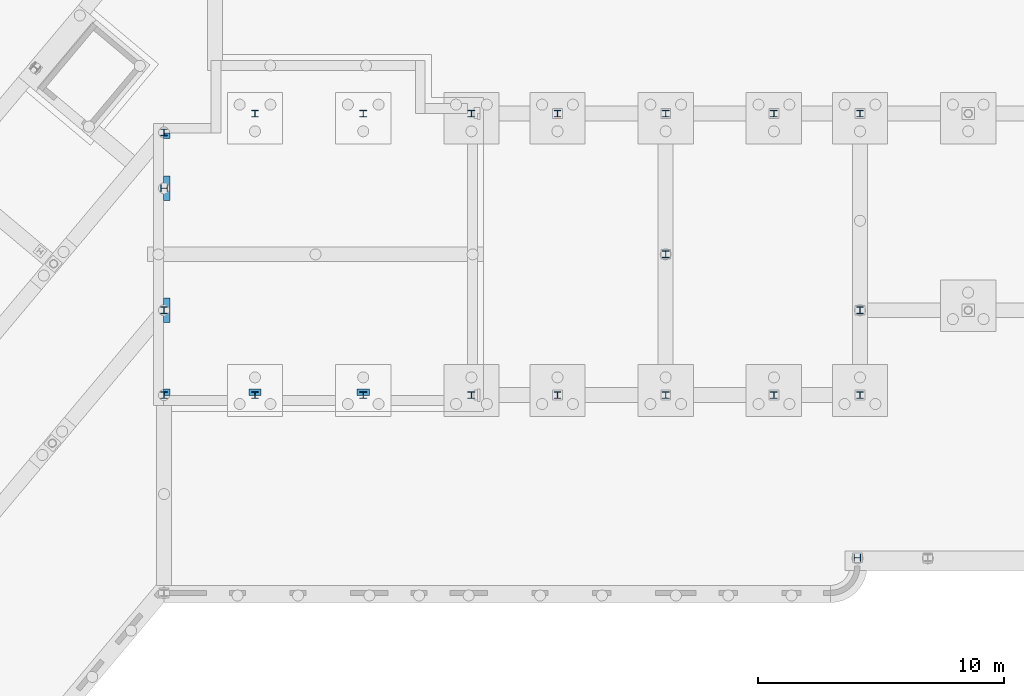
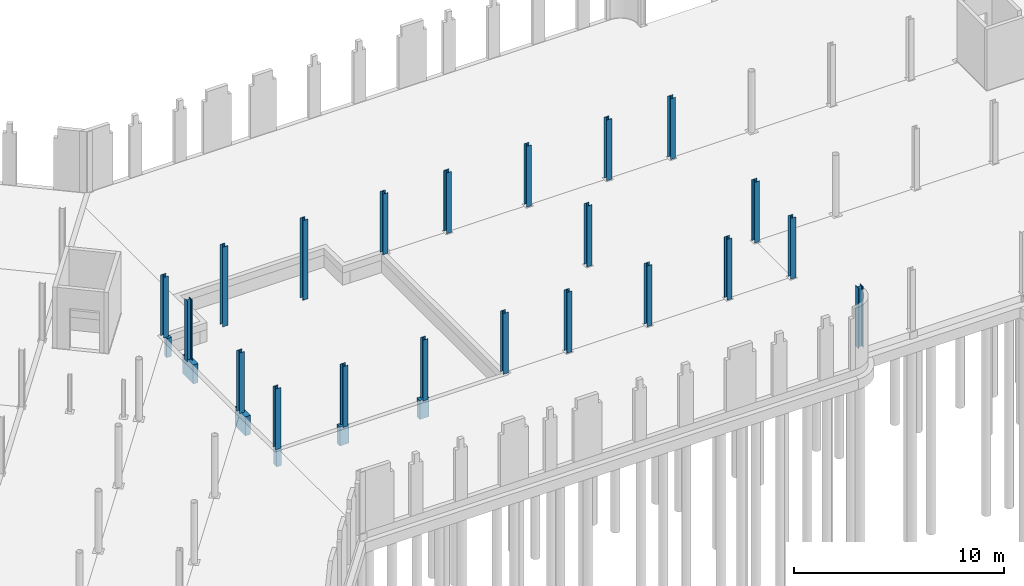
# One storey, part 8 of 26: 27 columns.
"""IFC2X3 building model written with IfcOpenShell, lengths in millimetres."""

from ifc_helpers import new_model, entity, si_unit, converted_unit, derived_unit, direction, frame, frame_2d, origin, origin_2d_with_axis, place, context, subcontext, project, spatial, rectangle, i_section, extrude, source, transform, mapped, material, type_object, type_shapes, element, save


model = new_model("IFC2X3")

# Units and contexts
model_context = context("Model", 3, precision=0.01, world=origin(), true_north=direction((6.123031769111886e-17, 1.0)))
body_context = subcontext(model_context, "Body", "Model", "MODEL_VIEW")
ifc_project = project(units=[si_unit("LENGTHUNIT", "METRE", prefix="MILLI"), si_unit("AREAUNIT", "SQUARE_METRE"), si_unit("VOLUMEUNIT", "CUBIC_METRE"), derived_unit("MASSDENSITYUNIT", [(si_unit("MASSUNIT", "GRAM", prefix="KILO"), 1), (si_unit("LENGTHUNIT", "METRE"), -3)]), si_unit("MASSUNIT", "GRAM", prefix="KILO"), converted_unit("PLANEANGLEUNIT", "DEGREE", entity("IfcPlaneAngleMeasure", 0.017453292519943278), si_unit("PLANEANGLEUNIT", "RADIAN"), dimensions=[0, 0, 0, 0, 0, 0, 0])], contexts=[model_context])

# Site, building, storey
site_placement = place(None, origin())
site = spatial("IfcSite", under=ifc_project, at=site_placement, Name="Default", CompositionType="ELEMENT")
building_placement = place(site_placement, origin())
building = spatial("IfcBuilding", under=site, at=building_placement, Name="AT constructie", CompositionType="ELEMENT")
storey_placement = place(building_placement, origin())
storey = spatial("IfcBuildingStorey", under=building, at=storey_placement, Name="00 begane grond", CompositionType="ELEMENT", Elevation=-1.0828671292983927e-12)

# Columns
ifc_material_1 = material(Name="h2_staal_S355")
column_type_1 = type_object("IfcColumnType", Name="kolom_gen_HEA280", PredefinedType="COLUMN", material=ifc_material_1)
shared_shape_1 = source(origin(), body_context, "Body", "SweptSolid", [
    extrude(i_section(OverallWidth=280.0000000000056, OverallDepth=269.99999999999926, WebThickness=7.999999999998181, FlangeThickness=13.000000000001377, FilletRadius=24.0, at=frame_2d((0.0, 8.668621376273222e-12), x_axis=(1.0, 0.0))), frame((69446.87463111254, 31271.043508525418, -50.0)), (0.0, 0.0, 1.0), 3529.0000000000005),
])
type_shapes(column_type_1, [shared_shape_1])
column_1_placement = place(storey_placement, origin())
element("IfcColumn", 1, at=column_1_placement, inside=storey, type_object=column_type_1, material=ifc_material_1, Name="NLRS_28_SC_TLB_kolom HEA_gen_AT:kolom_gen_HEA280", ObjectType="NLRS_28_SC_TLB_kolom HEA_gen_AT:kolom_gen_HEA280", context=body_context, shape_type="MappedRepresentation", body=[
    mapped(shared_shape_1, transform((0.0, 0.0, 0.0), scale=1.0)),
])
column_type_2 = type_object("IfcColumnType", Name="kolom_gen_HEA280", PredefinedType="COLUMN", material=ifc_material_1)
shared_shape_2 = source(origin(), body_context, "Body", "SweptSolid", [
    extrude(i_section(OverallWidth=280.0000000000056, OverallDepth=269.99999999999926, WebThickness=7.999999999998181, FlangeThickness=13.000000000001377, FilletRadius=24.0, at=origin_2d_with_axis()), frame((65946.87463111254, 31271.04350852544, -50.0)), (0.0, 0.0, 1.0), 3529.0000000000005),
])
type_shapes(column_type_2, [shared_shape_2])
column_2_placement = place(storey_placement, origin())
element("IfcColumn", 2, at=column_2_placement, inside=storey, type_object=column_type_2, material=ifc_material_1, Name="NLRS_28_SC_TLB_kolom HEA_gen_AT:kolom_gen_HEA280", ObjectType="NLRS_28_SC_TLB_kolom HEA_gen_AT:kolom_gen_HEA280", context=body_context, shape_type="MappedRepresentation", body=[
    mapped(shared_shape_2, transform((0.0, 0.0, 0.0), scale=1.0)),
])
column_type_3 = type_object("IfcColumnType", Name="kolom_gen_HEA280", PredefinedType="COLUMN", material=ifc_material_1)
shared_shape_3 = source(origin(), body_context, "Body", "SweptSolid", [
    extrude(i_section(OverallWidth=280.0000000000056, OverallDepth=269.99999999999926, WebThickness=7.999999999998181, FlangeThickness=13.000000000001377, FilletRadius=24.0, at=frame_2d((8.65441052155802e-12, -4.320099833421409e-12), x_axis=(1.0, 0.0))), frame((61546.87463111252, 31271.043508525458, -50.0)), (0.0, 0.0, 1.0), 3529.0000000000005),
])
type_shapes(column_type_3, [shared_shape_3])
column_3_placement = place(storey_placement, origin())
element("IfcColumn", 3, at=column_3_placement, inside=storey, type_object=column_type_3, material=ifc_material_1, Name="NLRS_28_SC_TLB_kolom HEA_gen_AT:kolom_gen_HEA280", ObjectType="NLRS_28_SC_TLB_kolom HEA_gen_AT:kolom_gen_HEA280", context=body_context, shape_type="MappedRepresentation", body=[
    mapped(shared_shape_3, transform((0.0, 0.0, 0.0), scale=1.0)),
])
column_type_4 = type_object("IfcColumnType", Name="kolom_gen_HEA280", PredefinedType="COLUMN", material=ifc_material_1)
shared_shape_4 = source(origin(), body_context, "Body", "SweptSolid", [
    extrude(i_section(OverallWidth=280.0000000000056, OverallDepth=269.99999999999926, WebThickness=7.999999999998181, FlangeThickness=13.000000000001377, FilletRadius=24.0, at=frame_2d((8.65441052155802e-12, 0.0), x_axis=(1.0, 0.0))), frame((57146.874631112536, 31271.043508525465, -50.0)), (0.0, 0.0, 1.0), 3529.0000000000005),
])
type_shapes(column_type_4, [shared_shape_4])
column_4_placement = place(storey_placement, origin())
element("IfcColumn", 4, at=column_4_placement, inside=storey, type_object=column_type_4, material=ifc_material_1, Name="NLRS_28_SC_TLB_kolom HEA_gen_AT:kolom_gen_HEA280", ObjectType="NLRS_28_SC_TLB_kolom HEA_gen_AT:kolom_gen_HEA280", context=body_context, shape_type="MappedRepresentation", body=[
    mapped(shared_shape_4, transform((0.0, 0.0, 0.0), scale=1.0)),
])
column_type_5 = type_object("IfcColumnType", Name="kolom_gen_HEA280", PredefinedType="COLUMN", material=ifc_material_1)
shared_shape_5 = source(origin(), body_context, "Body", "SweptSolid", [
    extrude(i_section(OverallWidth=280.0000000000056, OverallDepth=269.99999999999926, WebThickness=7.999999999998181, FlangeThickness=13.000000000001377, FilletRadius=24.0, at=frame_2d((-8.65441052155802e-12, 4.320099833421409e-12), x_axis=(1.0, 0.0))), frame((53646.87463111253, 31271.043508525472, -50.0)), (0.0, 0.0, 1.0), 3529.0000000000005),
])
type_shapes(column_type_5, [shared_shape_5])
column_5_placement = place(storey_placement, origin())
element("IfcColumn", 5, at=column_5_placement, inside=storey, type_object=column_type_5, material=ifc_material_1, Name="NLRS_28_SC_TLB_kolom HEA_gen_AT:kolom_gen_HEA280", ObjectType="NLRS_28_SC_TLB_kolom HEA_gen_AT:kolom_gen_HEA280", context=body_context, shape_type="MappedRepresentation", body=[
    mapped(shared_shape_5, transform((0.0, 0.0, 0.0), scale=1.0)),
])
column_type_6 = type_object("IfcColumnType", Name="kolom_gen_HEA280", PredefinedType="COLUMN", material=ifc_material_1)
shared_shape_6 = source(origin(), body_context, "Body", "SweptSolid", [
    extrude(i_section(OverallWidth=280.0000000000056, OverallDepth=269.99999999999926, WebThickness=7.999999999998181, FlangeThickness=13.000000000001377, FilletRadius=24.0, at=frame_2d((0.0, 1.2988721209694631e-11), x_axis=(1.0, 0.0))), frame((49246.87463111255, 31271.04350852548, -1154.0)), (0.0, 0.0, 1.0), 4633.0),
])
type_shapes(column_type_6, [shared_shape_6])
column_6_placement = place(storey_placement, origin())
element("IfcColumn", 6, at=column_6_placement, inside=storey, type_object=column_type_6, material=ifc_material_1, Name="NLRS_28_SC_TLB_kolom HEA_gen_AT:kolom_gen_HEA280", ObjectType="NLRS_28_SC_TLB_kolom HEA_gen_AT:kolom_gen_HEA280", context=body_context, shape_type="MappedRepresentation", body=[
    mapped(shared_shape_6, transform((0.0, 0.0, 0.0), scale=1.0)),
])
column_type_7 = type_object("IfcColumnType", Name="kolom_gen_HEA280", PredefinedType="COLUMN", material=ifc_material_1)
shared_shape_7 = source(origin(), body_context, "Body", "SweptSolid", [
    extrude(i_section(OverallWidth=280.0000000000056, OverallDepth=269.99999999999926, WebThickness=7.999999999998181, FlangeThickness=13.000000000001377, FilletRadius=24.0, at=origin_2d_with_axis()), frame((44846.87463111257, 31271.043508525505, -1154.0)), (0.0, 0.0, 1.0), 4633.0),
])
type_shapes(column_type_7, [shared_shape_7])
column_7_placement = place(storey_placement, origin())
element("IfcColumn", 7, at=column_7_placement, inside=storey, type_object=column_type_7, material=ifc_material_1, Name="NLRS_28_SC_TLB_kolom HEA_gen_AT:kolom_gen_HEA280", ObjectType="NLRS_28_SC_TLB_kolom HEA_gen_AT:kolom_gen_HEA280", context=body_context, shape_type="MappedRepresentation", body=[
    mapped(shared_shape_7, transform((0.0, 0.0, 0.0), scale=1.0)),
])
column_type_8 = type_object("IfcColumnType", Name="kolom_gen_HEA280", PredefinedType="COLUMN", material=ifc_material_1)
shared_shape_8 = source(origin(), body_context, "Body", "SweptSolid", [
    extrude(i_section(OverallWidth=280.0000000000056, OverallDepth=269.99999999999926, WebThickness=7.999999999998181, FlangeThickness=13.000000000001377, FilletRadius=24.0, at=origin_2d_with_axis()), frame((69446.87463111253, 23271.043508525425, -50.0)), (0.0, 0.0, 1.0), 3529.0000000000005),
])
type_shapes(column_type_8, [shared_shape_8])
column_8_placement = place(storey_placement, origin())
element("IfcColumn", 8, at=column_8_placement, inside=storey, type_object=column_type_8, material=ifc_material_1, Name="NLRS_28_SC_TLB_kolom HEA_gen_AT:kolom_gen_HEA280", ObjectType="NLRS_28_SC_TLB_kolom HEA_gen_AT:kolom_gen_HEA280", context=body_context, shape_type="MappedRepresentation", body=[
    mapped(shared_shape_8, transform((0.0, 0.0, 0.0), scale=1.0)),
])
column_type_9 = type_object("IfcColumnType", Name="kolom_gen_HEA280", PredefinedType="COLUMN", material=ifc_material_1)
shared_shape_9 = source(origin(), body_context, "Body", "SweptSolid", [
    extrude(i_section(OverallWidth=280.0000000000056, OverallDepth=269.99999999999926, WebThickness=7.999999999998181, FlangeThickness=13.000000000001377, FilletRadius=24.0, at=frame_2d((8.65441052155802e-12, 0.0), x_axis=(1.0, 0.0))), frame((65946.8746311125, 19821.04350852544, -50.0)), (0.0, 0.0, 1.0), 3529.0000000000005),
])
type_shapes(column_type_9, [shared_shape_9])
column_9_placement = place(storey_placement, origin())
element("IfcColumn", 9, at=column_9_placement, inside=storey, type_object=column_type_9, material=ifc_material_1, Name="NLRS_28_SC_TLB_kolom HEA_gen_AT:kolom_gen_HEA280", ObjectType="NLRS_28_SC_TLB_kolom HEA_gen_AT:kolom_gen_HEA280", context=body_context, shape_type="MappedRepresentation", body=[
    mapped(shared_shape_9, transform((0.0, 0.0, 0.0), scale=1.0)),
])
column_type_10 = type_object("IfcColumnType", Name="kolom_gen_HEA280", PredefinedType="COLUMN", material=ifc_material_1)
shared_shape_10 = source(origin(), body_context, "Body", "SweptSolid", [
    extrude(i_section(OverallWidth=280.0000000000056, OverallDepth=269.99999999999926, WebThickness=7.999999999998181, FlangeThickness=13.000000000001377, FilletRadius=24.0, at=origin_2d_with_axis()), frame((61546.87463111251, 19821.04350852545, -50.0)), (0.0, 0.0, 1.0), 3529.0000000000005),
])
type_shapes(column_type_10, [shared_shape_10])
column_10_placement = place(storey_placement, origin())
element("IfcColumn", 10, at=column_10_placement, inside=storey, type_object=column_type_10, material=ifc_material_1, Name="NLRS_28_SC_TLB_kolom HEA_gen_AT:kolom_gen_HEA280", ObjectType="NLRS_28_SC_TLB_kolom HEA_gen_AT:kolom_gen_HEA280", context=body_context, shape_type="MappedRepresentation", body=[
    mapped(shared_shape_10, transform((0.0, 0.0, 0.0), scale=1.0)),
])
column_type_11 = type_object("IfcColumnType", Name="kolom_gen_HEA280", PredefinedType="COLUMN", material=ifc_material_1)
shared_shape_11 = source(origin(), body_context, "Body", "SweptSolid", [
    extrude(i_section(OverallWidth=280.0000000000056, OverallDepth=269.99999999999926, WebThickness=7.999999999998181, FlangeThickness=13.000000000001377, FilletRadius=24.0, at=frame_2d((0.0, 4.320099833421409e-12), x_axis=(1.0, 0.0))), frame((57146.87463111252, 19821.04350852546, -50.0)), (0.0, 0.0, 1.0), 3529.0000000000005),
])
type_shapes(column_type_11, [shared_shape_11])
column_11_placement = place(storey_placement, origin())
element("IfcColumn", 11, at=column_11_placement, inside=storey, type_object=column_type_11, material=ifc_material_1, Name="NLRS_28_SC_TLB_kolom HEA_gen_AT:kolom_gen_HEA280", ObjectType="NLRS_28_SC_TLB_kolom HEA_gen_AT:kolom_gen_HEA280", context=body_context, shape_type="MappedRepresentation", body=[
    mapped(shared_shape_11, transform((0.0, 0.0, 0.0), scale=1.0)),
])
column_type_12 = type_object("IfcColumnType", Name="kolom_gen_HEA280", PredefinedType="COLUMN", material=ifc_material_1)
shared_shape_12 = source(origin(), body_context, "Body", "SweptSolid", [
    extrude(i_section(OverallWidth=280.0000000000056, OverallDepth=269.99999999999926, WebThickness=7.999999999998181, FlangeThickness=13.000000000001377, FilletRadius=24.0, at=frame_2d((1.7323031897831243e-11, 0.0), x_axis=(1.0, 0.0))), frame((53646.87463111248, 19821.043508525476, -50.0)), (0.0, 0.0, 1.0), 3529.0000000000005),
])
type_shapes(column_type_12, [shared_shape_12])
column_12_placement = place(storey_placement, origin())
element("IfcColumn", 12, at=column_12_placement, inside=storey, type_object=column_type_12, material=ifc_material_1, Name="NLRS_28_SC_TLB_kolom HEA_gen_AT:kolom_gen_HEA280", ObjectType="NLRS_28_SC_TLB_kolom HEA_gen_AT:kolom_gen_HEA280", context=body_context, shape_type="MappedRepresentation", body=[
    mapped(shared_shape_12, transform((0.0, 0.0, 0.0), scale=1.0)),
])
column_type_13 = type_object("IfcColumnType", Name="kolom_gen_HEA280", PredefinedType="COLUMN", material=ifc_material_1)
shared_shape_13 = source(origin(), body_context, "Body", "SweptSolid", [
    extrude(i_section(OverallWidth=280.0000000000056, OverallDepth=269.99999999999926, WebThickness=7.999999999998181, FlangeThickness=13.000000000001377, FilletRadius=24.0, at=origin_2d_with_axis()), frame((49246.87463111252, 19821.04350852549, -50.0)), (0.0, 0.0, 1.0), 3529.0000000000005),
])
type_shapes(column_type_13, [shared_shape_13])
column_13_placement = place(storey_placement, origin())
element("IfcColumn", 13, at=column_13_placement, inside=storey, type_object=column_type_13, material=ifc_material_1, Name="NLRS_28_SC_TLB_kolom HEA_gen_AT:kolom_gen_HEA280", ObjectType="NLRS_28_SC_TLB_kolom HEA_gen_AT:kolom_gen_HEA280", context=body_context, shape_type="MappedRepresentation", body=[
    mapped(shared_shape_13, transform((0.0, 0.0, 0.0), scale=1.0)),
])
column_type_14 = type_object("IfcColumnType", Name="kolom_gen_HEA280", PredefinedType="COLUMN", material=ifc_material_1)
shared_shape_14 = source(origin(), body_context, "Body", "SweptSolid", [
    extrude(i_section(OverallWidth=280.0000000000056, OverallDepth=269.99999999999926, WebThickness=7.999999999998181, FlangeThickness=13.000000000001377, FilletRadius=24.0, at=frame_2d((8.65441052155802e-12, 4.320099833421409e-12), x_axis=(1.0, 0.0))), frame((44846.874631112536, 19821.043508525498, -50.0)), (0.0, 0.0, 1.0), 3529.0000000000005),
])
type_shapes(column_type_14, [shared_shape_14])
column_14_placement = place(storey_placement, origin())
element("IfcColumn", 14, at=column_14_placement, inside=storey, type_object=column_type_14, material=ifc_material_1, Name="NLRS_28_SC_TLB_kolom HEA_gen_AT:kolom_gen_HEA280", ObjectType="NLRS_28_SC_TLB_kolom HEA_gen_AT:kolom_gen_HEA280", context=body_context, shape_type="MappedRepresentation", body=[
    mapped(shared_shape_14, transform((0.0, 0.0, 0.0), scale=1.0)),
])
column_type_15 = type_object("IfcColumnType", Name="kolom_gen_HEA280", PredefinedType="COLUMN", material=ifc_material_1)
shared_shape_15 = source(origin(), body_context, "Body", "SweptSolid", [
    extrude(i_section(OverallWidth=280.0000000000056, OverallDepth=269.99999999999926, WebThickness=7.999999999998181, FlangeThickness=13.000000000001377, FilletRadius=24.0, at=frame_2d((8.65441052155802e-12, 4.320099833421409e-12), x_axis=(1.0, 0.0))), frame((69446.8746311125, 19821.04350852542, -50.0)), (0.0, 0.0, 1.0), 3529.0000000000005),
])
type_shapes(column_type_15, [shared_shape_15])
column_15_placement = place(storey_placement, origin())
element("IfcColumn", 15, at=column_15_placement, inside=storey, type_object=column_type_15, material=ifc_material_1, Name="NLRS_28_SC_TLB_kolom HEA_gen_AT:kolom_gen_HEA280", ObjectType="NLRS_28_SC_TLB_kolom HEA_gen_AT:kolom_gen_HEA280", context=body_context, shape_type="MappedRepresentation", body=[
    mapped(shared_shape_15, transform((0.0, 0.0, 0.0), scale=1.0)),
])
column_type_16 = type_object("IfcColumnType", Name="kolom_gen_HEA280", PredefinedType="COLUMN", material=ifc_material_1)
shared_shape_16 = source(origin(), body_context, "Body", "SweptSolid", [
    extrude(i_section(OverallWidth=280.0000000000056, OverallDepth=269.99999999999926, WebThickness=7.999999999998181, FlangeThickness=13.000000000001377, FilletRadius=24.0, at=origin_2d_with_axis()), frame((41146.87463111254, 19821.043508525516, -50.0)), (0.0, 0.0, 1.0), 3524.000000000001),
])
type_shapes(column_type_16, [shared_shape_16])
column_16_placement = place(storey_placement, origin())
element("IfcColumn", 16, at=column_16_placement, inside=storey, type_object=column_type_16, material=ifc_material_1, Name="NLRS_28_SC_TLB_kolom HEA_gen_AT:kolom_gen_HEA280", ObjectType="NLRS_28_SC_TLB_kolom HEA_gen_AT:kolom_gen_HEA280", context=body_context, shape_type="MappedRepresentation", body=[
    mapped(shared_shape_16, transform((0.0, 0.0, 0.0), scale=1.0)),
])
column_type_17 = type_object("IfcColumnType", Name="kolom_gen_HEA280", PredefinedType="COLUMN", material=ifc_material_1)
shared_shape_17 = source(origin(), body_context, "Body", "SweptSolid", [
    extrude(i_section(OverallWidth=280.0000000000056, OverallDepth=269.99999999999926, WebThickness=7.999999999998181, FlangeThickness=13.000000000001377, FilletRadius=24.0, at=frame_2d((0.0, 8.668621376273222e-12), x_axis=(1.0, 0.0))), frame((41146.87463111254, 23271.043508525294, -50.0)), (0.0, 0.0, 1.0), 3524.000000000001),
])
type_shapes(column_type_17, [shared_shape_17])
column_17_placement = place(storey_placement, origin())
element("IfcColumn", 17, at=column_17_placement, inside=storey, type_object=column_type_17, material=ifc_material_1, Name="NLRS_28_SC_TLB_kolom HEA_gen_AT:kolom_gen_HEA280", ObjectType="NLRS_28_SC_TLB_kolom HEA_gen_AT:kolom_gen_HEA280", context=body_context, shape_type="MappedRepresentation", body=[
    mapped(shared_shape_17, transform((0.0, 0.0, 0.0), scale=1.0)),
])
column_type_18 = type_object("IfcColumnType", Name="kolom_gen_HEA280", PredefinedType="COLUMN", material=ifc_material_1)
shared_shape_18 = source(origin(), body_context, "Body", "SweptSolid", [
    extrude(i_section(OverallWidth=279.9999999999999, OverallDepth=269.99999999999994, WebThickness=7.9999999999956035, FlangeThickness=12.999999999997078, FilletRadius=24.0, at=frame_2d((2.1600499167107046e-12, 0.0), x_axis=(1.0, 0.0))), frame((69345.37462610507, 13206.043519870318, -50.0), z_axis=(0.0, 0.0, 1.0), x_axis=(-7.1525818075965e-08, 1.0, 0.0)), (0.0, 0.0, 1.0), 3529.0000000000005),
])
type_shapes(column_type_18, [shared_shape_18])
column_18_placement = place(storey_placement, origin())
element("IfcColumn", 18, at=column_18_placement, inside=storey, type_object=column_type_18, material=ifc_material_1, Name="NLRS_28_SC_TLB_kolom HEA_gen_AT:kolom_gen_HEA280", ObjectType="NLRS_28_SC_TLB_kolom HEA_gen_AT:kolom_gen_HEA280", context=body_context, shape_type="MappedRepresentation", body=[
    mapped(shared_shape_18, transform((0.0, 0.0, 0.0), scale=1.0)),
])
column_type_19 = type_object("IfcColumnType", Name="kolom_gen_HEA280", PredefinedType="COLUMN", material=ifc_material_1)
shared_shape_19 = source(origin(), body_context, "Body", "SweptSolid", [
    extrude(i_section(OverallWidth=280.0000000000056, OverallDepth=269.99999999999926, WebThickness=7.999999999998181, FlangeThickness=13.000000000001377, FilletRadius=24.0, at=frame_2d((0.0, 4.320099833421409e-12), x_axis=(1.0, 0.0))), frame((41146.87463111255, 30506.043508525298, -50.0)), (0.0, 0.0, 1.0), 3524.000000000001),
])
type_shapes(column_type_19, [shared_shape_19])
column_19_placement = place(storey_placement, origin())
element("IfcColumn", 19, at=column_19_placement, inside=storey, type_object=column_type_19, material=ifc_material_1, Name="NLRS_28_SC_TLB_kolom HEA_gen_AT:kolom_gen_HEA280", ObjectType="NLRS_28_SC_TLB_kolom HEA_gen_AT:kolom_gen_HEA280", context=body_context, shape_type="MappedRepresentation", body=[
    mapped(shared_shape_19, transform((0.0, 0.0, 0.0), scale=1.0)),
])
column_type_20 = type_object("IfcColumnType", Name="kolom_gen_HEA280", PredefinedType="COLUMN", material=ifc_material_1)
shared_shape_20 = source(origin(), body_context, "Body", "SweptSolid", [
    extrude(i_section(OverallWidth=280.0000000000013, OverallDepth=269.99999999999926, WebThickness=8.000000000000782, FlangeThickness=12.999999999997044, FilletRadius=24.0, at=frame_2d((8.668621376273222e-12, 0.0), x_axis=(1.0, 0.0))), frame((41146.874631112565, 28231.0435085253, -50.0), z_axis=(0.0, 0.0, 1.0), x_axis=(0.0, -1.0, 0.0)), (0.0, 0.0, 1.0), 3524.000000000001),
])
type_shapes(column_type_20, [shared_shape_20])
column_20_placement = place(storey_placement, origin())
element("IfcColumn", 20, at=column_20_placement, inside=storey, type_object=column_type_20, material=ifc_material_1, Name="NLRS_28_SC_TLB_kolom HEA_gen_AT:kolom_gen_HEA280", ObjectType="NLRS_28_SC_TLB_kolom HEA_gen_AT:kolom_gen_HEA280", context=body_context, shape_type="MappedRepresentation", body=[
    mapped(shared_shape_20, transform((0.0, 0.0, 0.0), scale=1.0)),
])
column_type_21 = type_object("IfcColumnType", Name="kolom_gen_HEA280", PredefinedType="COLUMN", material=ifc_material_1)
shared_shape_21 = source(origin(), body_context, "Body", "SweptSolid", [
    extrude(i_section(OverallWidth=280.0000000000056, OverallDepth=269.99999999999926, WebThickness=7.999999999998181, FlangeThickness=13.000000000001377, FilletRadius=24.0, at=frame_2d((0.0, -4.320099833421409e-12), x_axis=(1.0, 0.0))), frame((61546.87463111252, 25546.043508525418, -50.0)), (0.0, 0.0, 1.0), 3529.0000000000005),
])
type_shapes(column_type_21, [shared_shape_21])
column_21_placement = place(storey_placement, origin())
element("IfcColumn", 21, at=column_21_placement, inside=storey, type_object=column_type_21, material=ifc_material_1, Name="NLRS_28_SC_TLB_kolom HEA_gen_AT:kolom_gen_HEA280", ObjectType="NLRS_28_SC_TLB_kolom HEA_gen_AT:kolom_gen_HEA280", context=body_context, shape_type="MappedRepresentation", body=[
    mapped(shared_shape_21, transform((0.0, 0.0, 0.0), scale=1.0)),
])
ifc_material_2 = material(Name="f2_beton ihwg_gen")
column_type_22 = type_object("IfcColumnType", Name="opstorting vierkant_gen_lxb 500x1000", PredefinedType="COLUMN", material=ifc_material_2)
shared_shape_22 = source(origin(), body_context, "Body", "SweptSolid", [
    extrude(rectangle(XDim=274.9999999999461, YDim=999.999999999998, at=origin_2d_with_axis()), frame((41259.37463111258, 28231.043508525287, -1154.0), z_axis=(0.0, 0.0, 1.0), x_axis=(-1.0, 0.0, 0.0)), (0.0, 0.0, 1.0), 1104.0),
])
type_shapes(column_type_22, [shared_shape_22])
column_22_placement = place(storey_placement, origin())
element("IfcColumn", 22, at=column_22_placement, inside=storey, type_object=column_type_22, material=ifc_material_2, Name="NLRS_16_SC_TLB_opstorting beton_gen_AT:opstorting vierkant_gen_lxb 500x1000", ObjectType="NLRS_16_SC_TLB_opstorting beton_gen_AT:opstorting vierkant_gen_lxb 500x1000", context=body_context, shape_type="MappedRepresentation", body=[
    mapped(shared_shape_22, transform((0.0, 0.0, 0.0), scale=1.0)),
])
column_type_23 = type_object("IfcColumnType", Name="opstorting vierkant_gen_lxb 500x500", PredefinedType="COLUMN", material=ifc_material_2)
shared_shape_23 = source(origin(), body_context, "Body", "SweptSolid", [
    extrude(rectangle(XDim=215.00000000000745, YDim=274.9999999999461, at=frame_2d((-2.1671553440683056e-12, 4.334310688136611e-12), x_axis=(1.0, 0.0))), frame((41259.37463111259, 30363.5435085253, -1154.0), z_axis=(0.0, 0.0, 1.0), x_axis=(0.0, 1.0, 0.0)), (0.0, 0.0, 1.0), 1104.0),
])
type_shapes(column_type_23, [shared_shape_23])
column_23_placement = place(storey_placement, origin())
element("IfcColumn", 23, at=column_23_placement, inside=storey, type_object=column_type_23, material=ifc_material_2, Name="NLRS_16_SC_TLB_opstorting beton_gen_AT:opstorting vierkant_gen_lxb 500x500", ObjectType="NLRS_16_SC_TLB_opstorting beton_gen_AT:opstorting vierkant_gen_lxb 500x500", context=body_context, shape_type="MappedRepresentation", body=[
    mapped(shared_shape_23, transform((0.0, 0.0, 0.0), scale=1.0)),
])
column_type_24 = type_object("IfcColumnType", Name="opstorting vierkant_gen_lxb 500x1000", PredefinedType="COLUMN", material=ifc_material_2)
shared_shape_24 = source(origin(), body_context, "Body", "SweptSolid", [
    extrude(rectangle(XDim=274.9999999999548, YDim=999.999999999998, at=frame_2d((-4.334310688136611e-12, 0.0), x_axis=(1.0, 0.0))), frame((41259.374631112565, 23271.043508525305, -1154.0), z_axis=(0.0, 0.0, 1.0), x_axis=(-1.0, 0.0, 0.0)), (0.0, 0.0, 1.0), 1104.0),
])
type_shapes(column_type_24, [shared_shape_24])
column_24_placement = place(storey_placement, origin())
element("IfcColumn", 24, at=column_24_placement, inside=storey, type_object=column_type_24, material=ifc_material_2, Name="NLRS_16_SC_TLB_opstorting beton_gen_AT:opstorting vierkant_gen_lxb 500x1000", ObjectType="NLRS_16_SC_TLB_opstorting beton_gen_AT:opstorting vierkant_gen_lxb 500x1000", context=body_context, shape_type="MappedRepresentation", body=[
    mapped(shared_shape_24, transform((0.0, 0.0, 0.0), scale=1.0)),
])
column_type_25 = type_object("IfcColumnType", Name="opstorting vierkant_gen_lxb 500x500", PredefinedType="COLUMN", material=ifc_material_2)
shared_shape_25 = source(origin(), body_context, "Body", "SweptSolid", [
    extrude(rectangle(XDim=274.9999999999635, YDim=275.0000000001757, at=frame_2d((4.334310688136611e-12, 2.1600499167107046e-12), x_axis=(1.0, 0.0))), frame((41259.374631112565, 19933.54350852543, -1154.0), z_axis=(0.0, 0.0, 1.0), x_axis=(-1.0, 0.0, 0.0)), (0.0, 0.0, 1.0), 1104.0),
])
type_shapes(column_type_25, [shared_shape_25])
column_25_placement = place(storey_placement, origin())
element("IfcColumn", 25, at=column_25_placement, inside=storey, type_object=column_type_25, material=ifc_material_2, Name="NLRS_16_SC_TLB_opstorting beton_gen_AT:opstorting vierkant_gen_lxb 500x500", ObjectType="NLRS_16_SC_TLB_opstorting beton_gen_AT:opstorting vierkant_gen_lxb 500x500", context=body_context, shape_type="MappedRepresentation", body=[
    mapped(shared_shape_25, transform((0.0, 0.0, 0.0), scale=1.0)),
])
column_type_26 = type_object("IfcColumnType", Name="opstorting vierkant_gen_lxb 500x500", PredefinedType="COLUMN", material=ifc_material_2)
shared_shape_26 = source(origin(), body_context, "Body", "SweptSolid", [
    extrude(rectangle(XDim=275.0000000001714, YDim=499.999999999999, at=frame_2d((0.0, -4.334310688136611e-12), x_axis=(1.0, 0.0))), frame((44846.87463111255, 19933.543508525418, -1154.0), z_axis=(0.0, 0.0, 1.0), x_axis=(0.0, -1.0, 0.0)), (0.0, 0.0, 1.0), 1104.0),
])
type_shapes(column_type_26, [shared_shape_26])
column_26_placement = place(storey_placement, origin())
element("IfcColumn", 26, at=column_26_placement, inside=storey, type_object=column_type_26, material=ifc_material_2, Name="NLRS_16_SC_TLB_opstorting beton_gen_AT:opstorting vierkant_gen_lxb 500x500", ObjectType="NLRS_16_SC_TLB_opstorting beton_gen_AT:opstorting vierkant_gen_lxb 500x500", context=body_context, shape_type="MappedRepresentation", body=[
    mapped(shared_shape_26, transform((0.0, 0.0, 0.0), scale=1.0)),
])
column_type_27 = type_object("IfcColumnType", Name="opstorting vierkant_gen_lxb 500x500", PredefinedType="COLUMN", material=ifc_material_2)
shared_shape_27 = source(origin(), body_context, "Body", "SweptSolid", [
    extrude(rectangle(XDim=275.0000000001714, YDim=499.999999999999, at=frame_2d((0.0, -4.334310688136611e-12), x_axis=(1.0, 0.0))), frame((49246.87463111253, 19933.543508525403, -1154.0), z_axis=(0.0, 0.0, 1.0), x_axis=(0.0, -1.0, 0.0)), (0.0, 0.0, 1.0), 1104.0),
])
type_shapes(column_type_27, [shared_shape_27])
column_27_placement = place(storey_placement, origin())
element("IfcColumn", 27, at=column_27_placement, inside=storey, type_object=column_type_27, material=ifc_material_2, Name="NLRS_16_SC_TLB_opstorting beton_gen_AT:opstorting vierkant_gen_lxb 500x500", ObjectType="NLRS_16_SC_TLB_opstorting beton_gen_AT:opstorting vierkant_gen_lxb 500x500", context=body_context, shape_type="MappedRepresentation", body=[
    mapped(shared_shape_27, transform((0.0, 0.0, 0.0), scale=1.0)),
])

save(model, "model.ifc")
